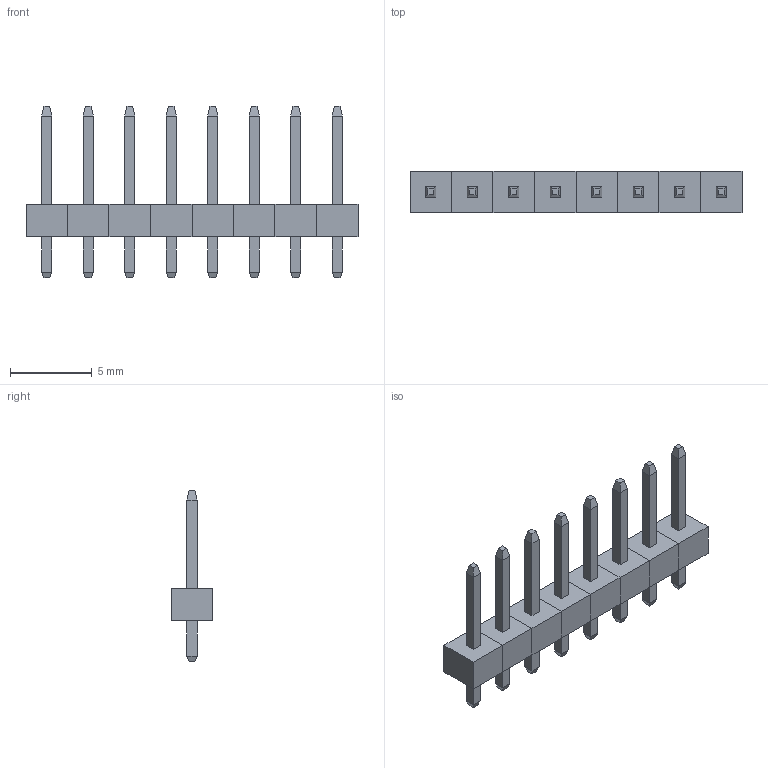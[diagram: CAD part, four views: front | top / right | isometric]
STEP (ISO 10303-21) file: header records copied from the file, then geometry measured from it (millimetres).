
FILE_DESCRIPTION(('shape.step'),'2;1');
FILE_NAME('shape.step','2026-11-03',('tscircuit'),('tscircuit'),'generator','','');
FILE_SCHEMA(('AUTOMOTIVE_DESIGN { 1 0 10303 214 1 1 1 1 }'));
Length unit declared in the file: millimetre
Products named in the file (1): shape
Bounding box: 20.32 x 2.54 x 10.5 mm (x, y, z)
Volume: 130.8 mm3; surface area: 453 mm2
Topology: 24 solids, 24 shells, 208 faces, 416 edges, 256 vertices
Faces by surface type: plane 208
Entity records: 4928 total; most frequent: DIRECTION 834, ORIENTED_EDGE 832, CARTESIAN_POINT 465, VECTOR 416, LINE 416, EDGE_CURVE 416, VERTEX_POINT 256, AXIS2_PLACEMENT_3D 209
